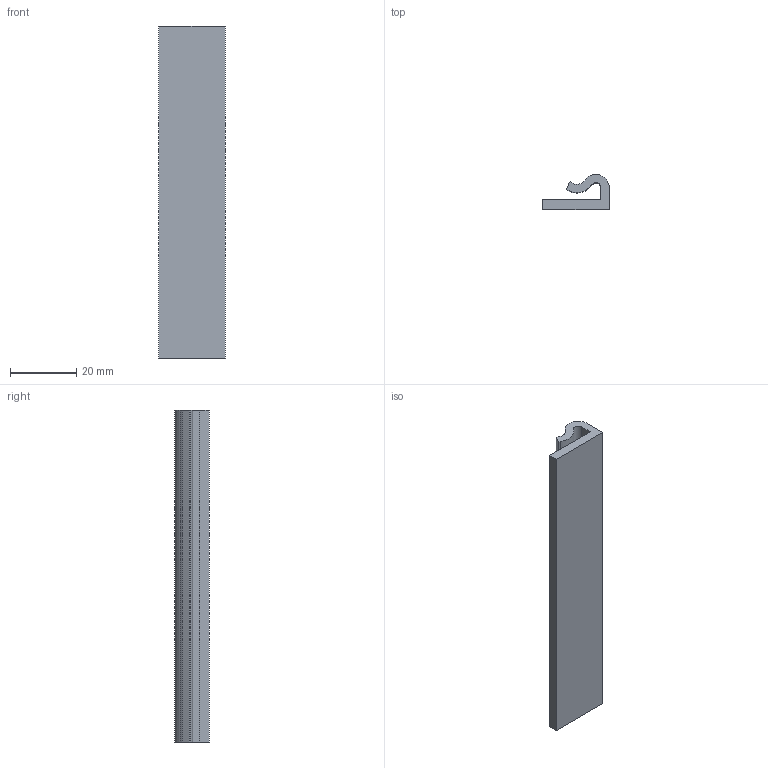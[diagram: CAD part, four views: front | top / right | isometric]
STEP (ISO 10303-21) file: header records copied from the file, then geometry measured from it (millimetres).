
FILE_DESCRIPTION (( 'STEP AP203' ), '1' );
FILE_NAME ('800.100.101.STEP', '2013-01-29T14:58:10', ( 'Alusic' ), ( 'Alusic' ), 'SwSTEP 2.0', 'SolidWorks 2011', '' );
FILE_SCHEMA (( 'CONFIG_CONTROL_DESIGN' ));
Length unit declared in the file: millimetre
Products named in the file (1): 800.100.101
Bounding box: 20 x 10.49 x 100 mm (x, y, z)
Volume: 10342.8 mm3; surface area: 8281.1 mm2
Topology: 1 solids, 1 shells, 14 faces, 36 edges, 24 vertices
Faces by surface type: plane 10, cylinder 4
Entity records: 505 total; most frequent: CARTESIAN_POINT 75, DIRECTION 74, ORIENTED_EDGE 72, EDGE_CURVE 36, VECTOR 28, LINE 28, VERTEX_POINT 24, AXIS2_PLACEMENT_3D 23
